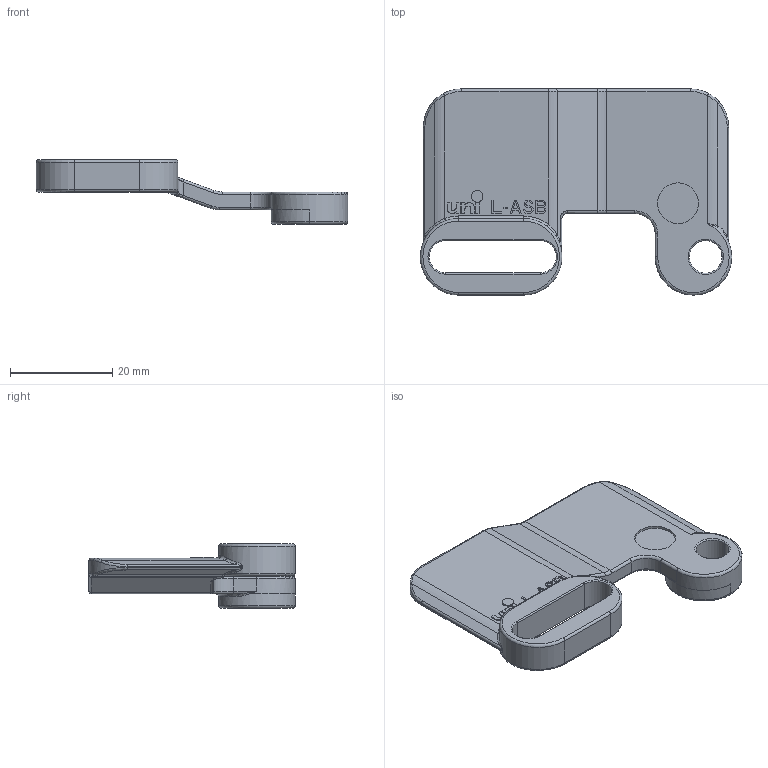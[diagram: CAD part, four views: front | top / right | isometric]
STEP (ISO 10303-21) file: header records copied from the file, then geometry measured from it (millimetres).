
FILE_DESCRIPTION((''),'2;1');
FILE_NAME('P1144','2013-11-14T',('jas'),(''),'PRO/ENGINEER BY PARAMETRIC TECHNOLOGY CORPORATION, 2013230','PRO/ENGINEER BY PARAMETRIC TECHNOLOGY CORPORATION, 2013230','');
FILE_SCHEMA(('AUTOMOTIVE_DESIGN { 1 0 10303 214 1 1 1 1 }'));
Length unit declared in the file: millimetre
Products named in the file (1): P1144
Bounding box: 61 x 40.4 x 12.6 mm (x, y, z)
Volume: 7398.9 mm3; surface area: 5174.8 mm2
Topology: 1 solids, 1 shells, 298 faces, 762 edges, 479 vertices
Faces by surface type: plane 173, cylinder 60, bspline 35, torus 30
Entity records: 11047 total; most frequent: CARTESIAN_POINT 3558, ORIENTED_EDGE 1524, DIRECTION 1385, EDGE_CURVE 762, VECTOR 521, LINE 521, VERTEX_POINT 479, AXIS2_PLACEMENT_3D 432
